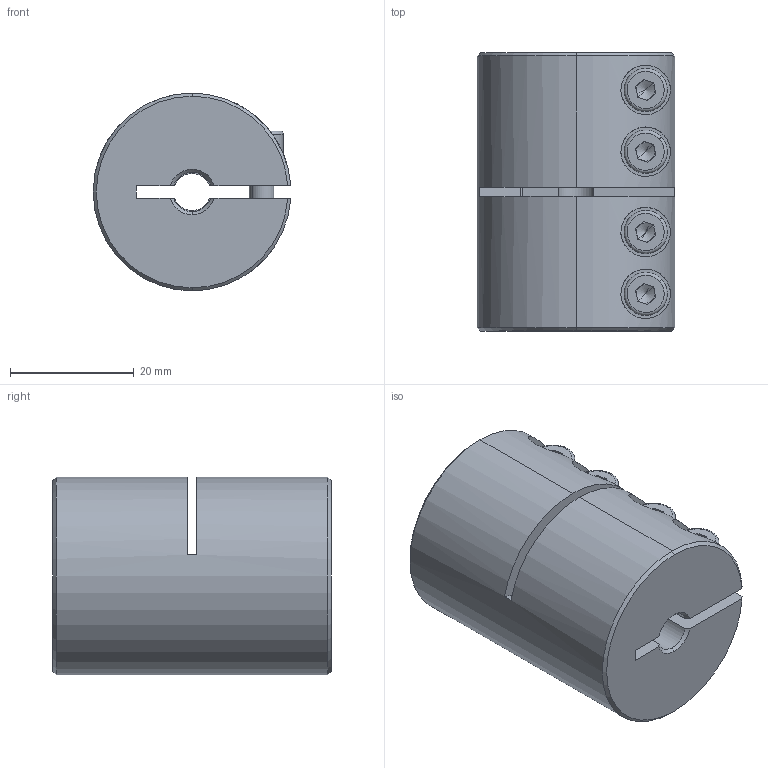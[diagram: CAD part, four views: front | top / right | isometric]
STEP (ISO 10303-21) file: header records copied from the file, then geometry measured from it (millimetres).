
FILE_DESCRIPTION (( 'STEP AP214' ), '1' );
FILE_NAME ('LL-B-D32L45-6-6.35½¨Ä£.STEP', '2022-07-21T06:42:16', ( '' ), ( '' ), 'SwSTEP 2.0', 'SolidWorks 2022', '' );
FILE_SCHEMA (( 'AUTOMOTIVE_DESIGN' ));
Length unit declared in the file: millimetre
Products named in the file (1): LL-B-D32L45-6-6.35膘耀
Bounding box: 31.97 x 45 x 32 mm (x, y, z)
Volume: 31882.9 mm3; surface area: 10697.7 mm2
Topology: 1 solids, 1 shells, 193 faces, 492 edges, 309 vertices
Faces by surface type: plane 88, cylinder 77, cone 20, torus 8
Entity records: 6357 total; most frequent: CARTESIAN_POINT 1583, DIRECTION 1037, ORIENTED_EDGE 968, EDGE_CURVE 484, AXIS2_PLACEMENT_3D 403, VERTEX_POINT 309, VECTOR 231, LINE 231
